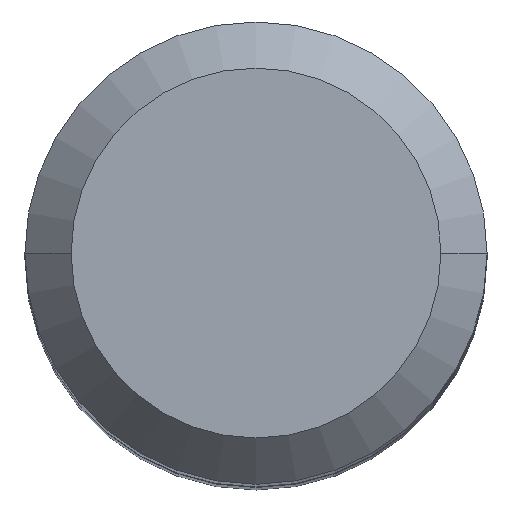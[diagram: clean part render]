
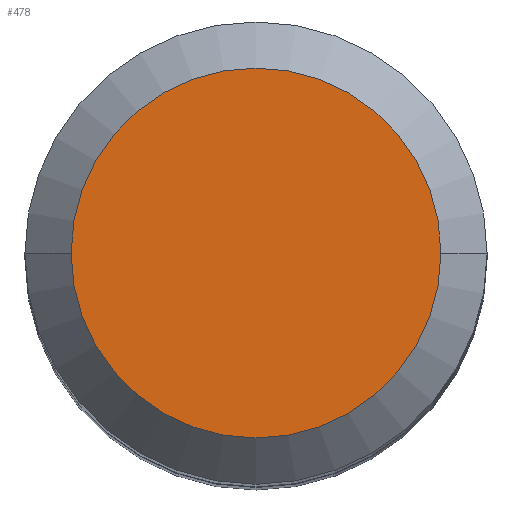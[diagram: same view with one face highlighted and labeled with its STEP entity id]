
A CAD part, top view. The second image highlights one B-rep face of the part: STEP entity #478.
In plain terms, the highlighted planar face has unit normal (0, 0, 1).
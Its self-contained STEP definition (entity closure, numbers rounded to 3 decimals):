
#22 = DIRECTION ( 'NONE',  ( 0., 0., -1. ) ) ;
#56 = DIRECTION ( 'NONE',  ( 1., 0., 0. ) ) ;
#67 = AXIS2_PLACEMENT_3D ( 'NONE', #363, #455, #56 ) ;
#114 = CARTESIAN_POINT ( 'NONE',  ( 0., 0., 0. ) ) ;
#131 = ORIENTED_EDGE ( 'NONE', *, *, #137, .F. ) ;
#133 = DIRECTION ( 'NONE',  ( -1., 0., 0. ) ) ;
#137 = EDGE_CURVE ( 'NONE', #167, #387, #469, .T. ) ;
#140 = AXIS2_PLACEMENT_3D ( 'NONE', #190, #347, #133 ) ;
#159 = CARTESIAN_POINT ( 'NONE',  ( 6.4, 0., 0. ) ) ;
#163 = ORIENTED_EDGE ( 'NONE', *, *, #401, .F. ) ;
#167 = VERTEX_POINT ( 'NONE', #502 ) ;
#189 = PLANE ( 'NONE',  #67 ) ;
#190 = CARTESIAN_POINT ( 'NONE',  ( 0., 0., 0. ) ) ;
#203 = DIRECTION ( 'NONE',  ( -1., 0., 0. ) ) ;
#326 = EDGE_LOOP ( 'NONE', ( #131, #163 ) ) ;
#347 = DIRECTION ( 'NONE',  ( 0., 0., -1. ) ) ;
#363 = CARTESIAN_POINT ( 'NONE',  ( 0., 6.4, 0. ) ) ;
#387 = VERTEX_POINT ( 'NONE', #159 ) ;
#401 = EDGE_CURVE ( 'NONE', #387, #167, #555, .T. ) ;
#455 = DIRECTION ( 'NONE',  ( 0., 0., 1. ) ) ;
#469 = CIRCLE ( 'NONE', #140, 6.4 ) ;
#478 = ADVANCED_FACE ( 'NONE', ( #533 ), #189, .T. ) ;
#502 = CARTESIAN_POINT ( 'NONE',  ( -6.4, 0., 0. ) ) ;
#508 = AXIS2_PLACEMENT_3D ( 'NONE', #114, #22, #203 ) ;
#533 = FACE_OUTER_BOUND ( 'NONE', #326, .T. ) ;
#555 = CIRCLE ( 'NONE', #508, 6.4 ) ;
